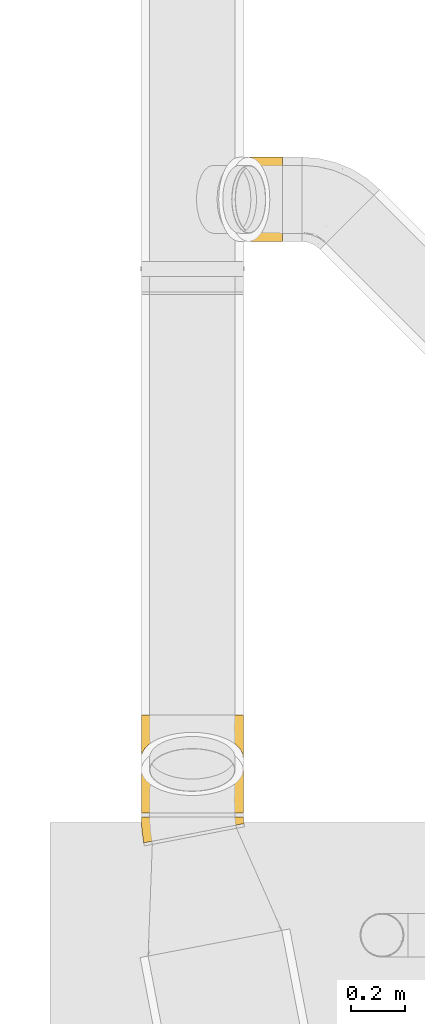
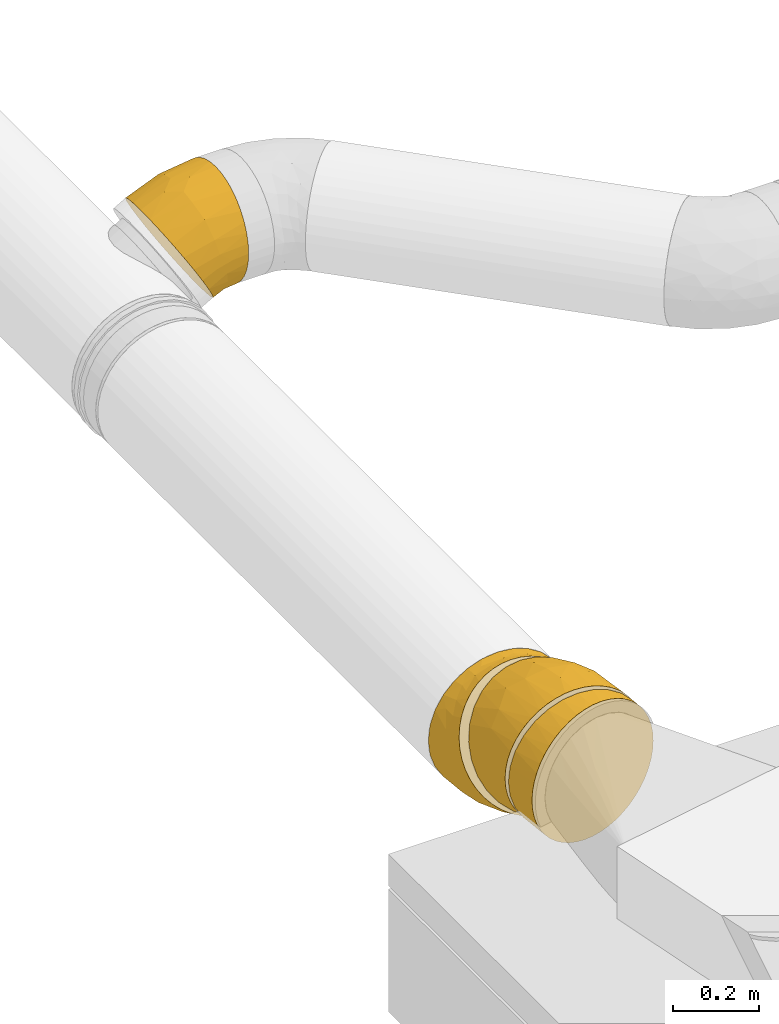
# One storey, part 3 of 21: 4 coverings.
"""IFC2X3 building model written with IfcOpenShell, lengths in millimetres."""

from ifc_helpers import new_model, entity, si_unit, converted_unit, derived_unit, direction, frame, origin_with_axes, place, context, subcontext, project, spatial, open_shell, surface_model, source, transform, mapped, element, save


model = new_model("IFC2X3")

# Units and contexts
model_context = context("Model", 3, precision=0.01, world=frame((0.0, 4.29681676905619e-09, 0.0)), true_north=direction((4.01073788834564e-13, 1.0)))
plan_context = context("Plan", 3, precision=0.01, world=frame((0.0, 4.29681676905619e-09, 0.0)), true_north=direction((4.01073788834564e-13, 1.0)))
body_context = subcontext(model_context, "Body", "Model", "MODEL_VIEW")
ifc_project = project(units=[converted_unit("PLANEANGLEUNIT", "DEGREE", entity("IfcPositiveLengthMeasure", 0.0174532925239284), si_unit("PLANEANGLEUNIT", "RADIAN"), dimensions=[0, 0, 0, 0, 0, 0, 0]), si_unit("AREAUNIT", "SQUARE_METRE"), si_unit("LENGTHUNIT", "METRE", prefix="MILLI"), si_unit("MASSUNIT", "GRAM", prefix="KILO"), si_unit("POWERUNIT", "WATT"), si_unit("PRESSUREUNIT", "PASCAL"), si_unit("FORCEUNIT", "NEWTON", prefix="KILO"), si_unit("ELECTRICVOLTAGEUNIT", "VOLT"), si_unit("ELECTRICCURRENTUNIT", "AMPERE"), si_unit("THERMODYNAMICTEMPERATUREUNIT", "DEGREE_CELSIUS"), si_unit("TIMEUNIT", "SECOND"), si_unit("VOLUMEUNIT", "CUBIC_METRE"), derived_unit("LINEARVELOCITYUNIT", [(si_unit("LENGTHUNIT", "METRE"), 1), (si_unit("TIMEUNIT", "SECOND"), -1)]), derived_unit("VOLUMETRICFLOWRATEUNIT", [(si_unit("VOLUMEUNIT", "CUBIC_METRE"), 1), (si_unit("TIMEUNIT", "SECOND"), -1)]), derived_unit("THERMALTRANSMITTANCEUNIT", [(si_unit("POWERUNIT", "WATT"), 1), (si_unit("THERMODYNAMICTEMPERATUREUNIT", "KELVIN"), -1), (si_unit("AREAUNIT", "SQUARE_METRE"), -1)]), derived_unit("SOUNDPRESSUREUNIT", [(si_unit("PRESSUREUNIT", "PASCAL"), 1)])], contexts=[model_context, plan_context])

# Site, building, storey
site_placement = place(None, frame((0.0, -4.29681676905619e-09, 0.0), z_axis=(0.0, 0.0, 1.0), x_axis=(1.0, 0.0, 0.0)))
site = spatial("IfcSite", under=ifc_project, at=site_placement, Name="ENGM", CompositionType="ELEMENT")
building_placement = place(site_placement, frame((0.0, 4.29681676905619e-09, 0.0), z_axis=(0.0, 0.0, 1.0), x_axis=(1.0, 0.0, 0.0)))
building = spatial("IfcBuilding", under=site, at=building_placement, Name="TI", CompositionType="ELEMENT")
storey_placement = place(building_placement, frame((0.0, 0.0, 210900.0), z_axis=(0.0, 0.0, 1.0), x_axis=(1.0, 0.0, 0.0)))
storey = spatial("IfcBuildingStorey", under=building, at=storey_placement, Name="Nivå F", CompositionType="ELEMENT", Elevation=210900.0)

# Coverings
shared_shape_1 = source(origin_with_axes(), body_context, "Body", "SurfaceModel", [
    surface_model("IfcShellBasedSurfaceModel", [(-19.4873, 167.72759, 0.0), (-14.81365, 159.63259, 53.0122), (-1.35471, 136.32102, 99.63454), (-18.31021, 165.68881, 26.91195), (-9.10354, 149.7424, 77.50252), (19.26159, 100.61255, 134.23266), (31.50673, 79.40337, 145.65278), (107.82971, -52.79189, -118.73529), (8.19571, 119.77922, 118.73529), (-14.81369, 159.63266, -53.01196), (8.19543, 119.77971, -118.73482), (-9.10363, 149.74254, -77.50222), (-1.35494, 136.32143, -99.63399), (-18.31026, 165.68889, -26.91148), (19.26144, 100.61281, -134.23249), (44.55673, 56.80009, -152.64582), (31.5066, 79.40357, -145.65269), (58.01271, 33.49366, -155.0), (58.01271, 33.49366, 155.0), (44.55697, 56.79968, 152.6459), (71.46869, 10.18723, 152.64582), (96.76398, -33.62548, 134.23249), (84.51881, -12.41625, 145.65269), (117.38036, -69.33411, 99.63399), (130.83912, -92.64534, 53.01196), (134.33568, -98.70156, 26.91148), (125.12904, -82.75522, 77.50222), (107.82999, -52.79238, 118.73482), (134.33563, -98.70149, -26.91195), (96.76382, -33.62523, -134.23266), (84.5187, -12.41604, -145.65278), (71.46845, 10.18764, -152.6459), (125.12896, -82.75508, -77.50252), (117.38013, -69.3337, -99.63454), (130.83907, -92.64526, -53.0122), (135.51272, -100.74027, 0.0), (-66.98731, 149.7185, -40.11695), (-66.98731, 134.23394, 77.5), (-66.98731, 155.0, 0.0), (-66.98731, 77.5, -134.23394), (-66.98731, 134.23394, -77.5), (-66.98731, 109.60155, -109.60155), (-66.98731, -77.5, 134.23394), (-66.98731, 0.0, 155.0), (-66.98731, 109.60155, 109.60155), (-66.98731, 149.7185, 40.11695), (-66.98731, 40.11695, 149.7185), (-66.98731, 77.5, 134.23394), (-66.98731, 40.11695, -149.7185), (-66.98731, 0.0, -155.0), (-66.98731, -40.11695, -149.7185), (-66.98731, -77.5, -134.23394), (-66.98731, -134.23394, -77.5), (-66.98731, -109.60155, -109.60155), (-66.98731, -155.0, 0.0), (-66.98731, -149.7185, -40.11695), (-66.98731, -134.23394, 77.5), (-66.98731, -109.60155, 109.60155), (-66.98731, -40.11695, 149.7185), (-66.98731, -149.7185, 40.11695), (3.42194, -22.89784, 151.69563), (3.34021, -148.84714, 0.0), (34.29058, -127.97065, 63.70327), (29.08628, -98.58902, 107.58049), (37.03183, -138.20466, 30.84929), (71.53087, -130.57551, 0.0), (15.49695, -57.83075, 138.94841), (-23.57526, 3.79806, 155.0), (18.51774, 15.07685, 155.0), (-37.32961, 122.13178, 99.63143), (-38.64047, 144.20928, 65.5067), (-25.29356, 94.39545, 126.96712), (-13.00009, 48.51701, 149.36618), (-52.49779, 154.25486, 23.78185), (-35.95377, 156.33294, 33.54854), (-42.3995, 158.23705, 0.0), (-50.41798, 153.46527, -30.07825), (-47.92806, 144.91575, -59.31592), (-10.5552, 39.39252, -151.66859), (-23.57526, 3.79806, -155.0), (-35.14431, 131.15929, -88.90642), (-33.01277, 103.51983, -118.73744), (-33.5473, 155.45897, -40.11439), (-19.23646, 71.79328, -140.4773), (18.51774, 15.07685, -155.0), (-30.09483, 146.11595, -67.02432), (3.42196, -22.89784, -151.69563), (15.49675, -57.83054, -138.94854), (34.29067, -127.9705, -63.70353), (29.08615, -98.58854, -107.58101), (37.03182, -138.20464, -30.84945)], [open_shell([[[0, 1, 2]], [[0, 3, 1]], [[1, 4, 2]], [[5, 6, 7]], [[2, 8, 5]], [[0, 5, 9]], [[0, 2, 5]], [[5, 7, 9]], [[10, 11, 9]], [[10, 12, 11]], [[13, 0, 9]], [[10, 9, 14]], [[14, 15, 16]], [[15, 14, 7]], [[7, 17, 15]], [[7, 14, 9]], [[18, 6, 19]], [[18, 20, 21]], [[22, 21, 20]], [[18, 21, 23]], [[23, 7, 6]], [[24, 25, 23]], [[24, 23, 26]], [[23, 21, 27]], [[28, 23, 25]], [[7, 29, 30]], [[31, 17, 30]], [[7, 30, 17]], [[32, 7, 28]], [[32, 33, 7]], [[32, 28, 34]], [[23, 28, 7]], [[25, 35, 28]], [[6, 18, 23]], [[36, 37, 38]], [[39, 36, 40]], [[37, 36, 39]], [[39, 40, 41]], [[42, 43, 39]], [[37, 43, 44]], [[37, 45, 38]], [[44, 46, 47]], [[46, 44, 43]], [[39, 43, 37]], [[39, 48, 42]], [[49, 50, 51]], [[49, 51, 52]], [[49, 52, 42]], [[52, 51, 53]], [[54, 52, 55]], [[42, 56, 57]], [[58, 43, 42]], [[56, 54, 59]], [[54, 56, 42]], [[52, 54, 42]], [[42, 48, 49]], [[22, 20, 60]], [[59, 54, 61]], [[62, 63, 56]], [[24, 26, 62]], [[42, 57, 63]], [[25, 64, 65]], [[63, 57, 56]], [[63, 66, 42]], [[66, 60, 58]], [[67, 43, 60]], [[27, 21, 66]], [[43, 58, 60]], [[68, 67, 60]], [[56, 59, 62]], [[58, 42, 66]], [[68, 60, 20]], [[65, 64, 61]], [[59, 64, 62]], [[26, 63, 62]], [[23, 63, 26]], [[24, 62, 64]], [[25, 65, 35]], [[59, 61, 64]], [[66, 22, 60]], [[18, 68, 20]], [[63, 27, 66]], [[22, 66, 21]], [[23, 27, 63]], [[24, 64, 25]], [[37, 69, 70]], [[46, 43, 67]], [[71, 47, 72]], [[72, 67, 68]], [[69, 71, 8]], [[47, 46, 72]], [[73, 74, 75]], [[45, 73, 38]], [[45, 37, 70]], [[19, 72, 68]], [[69, 44, 71]], [[73, 70, 74]], [[38, 73, 75]], [[72, 46, 67]], [[69, 8, 2]], [[8, 71, 5]], [[19, 6, 72]], [[71, 72, 5]], [[1, 74, 70]], [[44, 47, 71]], [[18, 19, 68]], [[37, 44, 69]], [[4, 1, 70]], [[3, 74, 1]], [[75, 74, 0]], [[70, 73, 45]], [[3, 0, 74]], [[72, 6, 5]], [[69, 4, 70]], [[4, 69, 2]], [[76, 77, 36]], [[38, 75, 76]], [[77, 40, 36]], [[48, 78, 79]], [[80, 40, 77]], [[41, 80, 81]], [[81, 80, 12]], [[77, 76, 82]], [[49, 48, 79]], [[39, 81, 83]], [[48, 83, 78]], [[83, 48, 39]], [[75, 13, 82]], [[79, 78, 84]], [[75, 82, 76]], [[9, 85, 82]], [[82, 13, 9]], [[12, 80, 11]], [[81, 12, 10]], [[85, 9, 11]], [[82, 85, 77]], [[15, 78, 16]], [[41, 40, 80]], [[0, 13, 75]], [[78, 83, 16]], [[14, 16, 83]], [[39, 41, 81]], [[17, 84, 15]], [[38, 76, 36]], [[11, 80, 85]], [[15, 84, 78]], [[85, 80, 77]], [[81, 14, 83]], [[14, 81, 10]], [[86, 87, 50]], [[55, 52, 88]], [[51, 89, 53]], [[49, 86, 50]], [[79, 86, 49]], [[89, 51, 87]], [[54, 55, 61]], [[89, 52, 53]], [[52, 89, 88]], [[90, 55, 88]], [[89, 33, 32]], [[84, 31, 86]], [[87, 86, 30]], [[89, 87, 7]], [[29, 87, 30]], [[33, 89, 7]], [[34, 88, 32]], [[32, 88, 89]], [[84, 86, 79]], [[65, 61, 90]], [[28, 35, 65]], [[55, 90, 61]], [[50, 87, 51]], [[90, 28, 65]], [[90, 88, 34]], [[34, 28, 90]], [[86, 31, 30]], [[31, 84, 17]], [[87, 29, 7]]])]),
])
covering_1_placement = place(storey_placement, frame((607585.18804, 693525.29135, 2600.0), z_axis=(0.0, 1.0, 0.0), x_axis=(0.866025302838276, 0.0, 0.500000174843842)))
element("IfcCovering", 1, at=covering_1_placement, inside=storey, Name="B-EI60", PredefinedType="INSULATION", context=body_context, shape_type="MappedRepresentation", body=[
    mapped(shared_shape_1, transform((0.0, 0.0, 0.0), scale=1.0)),
])
shared_shape_2 = source(origin_with_axes(), body_context, "Body", "SurfaceModel", [
    surface_model("IfcShellBasedSurfaceModel", [(-4.71663, 183.50911, 48.5277), (-3.23135, 175.76689, 71.7519), (-1.18766, 165.11387, 93.74847), (1.37948, 151.73233, 114.14103), (-4.71638, 183.5078, -48.53263), (-5.61808, 188.20806, 24.47321), (-5.92029, 189.78336, 0.0), (7.9002, 117.74223, 148.75191), (15.88644, 76.11286, 173.22595), (20.26199, 53.30474, 181.11), (7.90098, 117.73816, -148.75509), (11.74221, 97.71523, 162.37804), (4.42614, 135.85121, 132.58067), (34.01769, -18.39872, -185.89528), (-1.18717, 165.11132, -93.75296), (-3.23098, 175.76494, -71.75667), (1.38008, 151.72921, -114.14517), (4.42684, 135.84758, -132.58437), (-5.61795, 188.20741, -24.47835), (15.88734, 76.10818, -173.22793), (11.74306, 97.71081, -162.38066), (20.26292, 53.29989, -181.11133), (24.79493, 29.67618, -185.89598), (29.40582, 5.64126, -187.5), (24.79396, 29.68124, 185.89528), (29.40582, 5.64126, 187.5), (34.01672, -18.39366, 185.89598), (38.54966, -42.02221, -181.11), (42.92431, -64.82565, 173.22793), (38.54873, -42.01737, 181.11133), (47.06859, -86.42828, 162.38066), (50.91067, -106.45564, 148.75509), (63.52828, -172.22659, -48.5277), (57.43157, -140.44669, 114.14517), (59.99881, -153.8288, 93.75296), (63.52803, -172.22528, 48.53263), (64.4296, -176.92488, 24.47835), (62.04262, -164.48242, 71.75667), (54.38481, -124.56505, 132.58437), (54.38551, -124.56869, -132.58067), (50.91145, -106.45971, -148.75191), (57.43217, -140.44981, -114.14103), (47.06944, -86.43271, -162.37804), (42.92521, -64.83034, -173.22595), (64.73194, -178.50084, 0.0), (64.42973, -176.92554, -24.47321), (59.9993, -153.83136, -93.74847), (62.04299, -164.48436, -71.7519), (-29.94205, 187.5, 0.0), (-29.94205, 182.79898, -41.72268), (-29.94205, 168.93166, -81.3532), (-29.94205, 182.79898, 41.72268), (-29.94205, 146.5934, -116.90434), (-29.94205, 81.3532, -168.93166), (-29.94205, 116.90434, -146.5934), (-29.94205, -81.3532, 168.93166), (-29.94205, 168.93166, 81.3532), (-29.94205, 116.90434, 146.5934), (-29.94205, 146.5934, 116.90434), (-29.94205, 81.3532, 168.93166), (-29.94205, 41.72268, 182.79898), (-29.94205, -41.72268, 182.79898), (-29.94205, 0.0, 187.5), (-29.94205, 41.72268, -182.79898), (-29.94205, -41.72268, -182.79898), (-29.94205, -81.3532, -168.93166), (-29.94205, -146.5934, -116.90434), (-29.94205, -182.79898, -41.72268), (-29.94205, -168.93166, -81.3532), (-29.94205, -116.90434, -146.5934), (-29.94205, -146.5934, 116.90434), (-29.94205, -116.90434, 146.5934), (-29.94205, -182.79898, 41.72268), (-29.94205, -168.93166, 81.3532), (-29.94205, -187.5, 0.0), (-29.94205, 0.0, -187.5), (17.60831, -185.24516, 0.0), (-0.13436, 1.41349, 187.5), (-17.87703, 188.07213, 0.0), (-0.13436, 1.41349, -187.5)], [open_shell([[[0, 1, 2]], [[0, 2, 3]], [[0, 4, 5]], [[4, 6, 5]], [[7, 0, 3]], [[7, 8, 9]], [[9, 10, 0]], [[7, 11, 8]], [[9, 0, 7]], [[12, 7, 3]], [[9, 13, 10]], [[4, 14, 15]], [[4, 10, 16]], [[4, 16, 14]], [[17, 16, 10]], [[18, 6, 4]], [[10, 19, 20]], [[19, 10, 21]], [[10, 22, 21]], [[22, 10, 23]], [[4, 0, 10]], [[13, 23, 10]], [[9, 24, 25]], [[25, 26, 27]], [[28, 26, 29]], [[30, 31, 26]], [[30, 26, 28]], [[31, 32, 26]], [[33, 34, 31]], [[32, 31, 34]], [[35, 36, 34]], [[35, 34, 37]], [[31, 38, 33]], [[36, 32, 34]], [[39, 40, 41]], [[27, 40, 42]], [[32, 40, 27]], [[27, 42, 43]], [[25, 27, 13]], [[32, 44, 45]], [[46, 40, 32]], [[46, 41, 40]], [[46, 32, 47]], [[26, 32, 27]], [[36, 44, 32]], [[25, 13, 9]], [[48, 49, 50]], [[51, 48, 50]], [[52, 53, 51]], [[52, 54, 53]], [[52, 51, 50]], [[51, 53, 55]], [[56, 57, 58]], [[57, 56, 51]], [[59, 57, 60]], [[61, 62, 60]], [[57, 51, 55]], [[60, 57, 61]], [[53, 63, 55]], [[64, 65, 63]], [[65, 66, 63]], [[67, 63, 66]], [[68, 67, 66]], [[66, 65, 69]], [[67, 55, 63]], [[55, 70, 71]], [[61, 57, 55]], [[72, 70, 55]], [[73, 70, 72]], [[67, 72, 55]], [[67, 74, 72]], [[75, 64, 63]], [[72, 74, 76]], [[70, 73, 34]], [[72, 37, 73]], [[38, 71, 70]], [[77, 61, 26]], [[55, 28, 61]], [[77, 62, 61]], [[26, 25, 77]], [[30, 55, 71]], [[76, 35, 72]], [[73, 37, 34]], [[34, 33, 70]], [[76, 36, 35]], [[35, 37, 72]], [[38, 70, 33]], [[28, 29, 61]], [[26, 61, 29]], [[31, 30, 71]], [[28, 55, 30]], [[38, 31, 71]], [[36, 76, 44]], [[60, 62, 77]], [[12, 57, 7]], [[60, 8, 59]], [[59, 11, 57]], [[78, 48, 51]], [[5, 78, 51]], [[51, 56, 1]], [[12, 58, 57]], [[12, 3, 58]], [[58, 2, 56]], [[24, 60, 77]], [[59, 8, 11]], [[11, 7, 57]], [[8, 60, 9]], [[60, 24, 9]], [[77, 25, 24]], [[2, 1, 56]], [[1, 0, 51]], [[6, 78, 5]], [[51, 0, 5]], [[2, 58, 3]], [[49, 48, 78]], [[17, 52, 16]], [[49, 15, 50]], [[50, 14, 52]], [[79, 75, 63]], [[22, 79, 63]], [[63, 53, 19]], [[17, 54, 52]], [[17, 10, 54]], [[54, 20, 53]], [[18, 49, 78]], [[50, 15, 14]], [[14, 16, 52]], [[4, 15, 49]], [[18, 4, 49]], [[78, 6, 18]], [[20, 19, 53]], [[19, 21, 63]], [[23, 79, 22]], [[63, 21, 22]], [[20, 54, 10]], [[43, 65, 64]], [[64, 79, 13]], [[75, 79, 64]], [[69, 65, 42]], [[76, 74, 67]], [[32, 76, 67]], [[66, 69, 39]], [[46, 68, 66]], [[67, 68, 47]], [[13, 79, 23]], [[64, 27, 43]], [[65, 43, 42]], [[40, 39, 69]], [[40, 69, 42]], [[39, 41, 66]], [[46, 47, 68]], [[47, 32, 67]], [[45, 44, 76]], [[76, 32, 45]], [[66, 41, 46]], [[27, 64, 13]]])]),
])
covering_2_placement = place(storey_placement, frame((607319.79165, 691225.17878, 2556.77914), z_axis=(0.00129100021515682, 0.0, 0.999999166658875), x_axis=(0.0, -1.0, 0.0)))
element("IfcCovering", 2, at=covering_2_placement, inside=storey, Name="T=25mm", PredefinedType="INSULATION", context=body_context, shape_type="MappedRepresentation", body=[
    mapped(shared_shape_2, transform((0.0, 0.0, 0.0), scale=1.0)),
])
shared_shape_3 = source(origin_with_axes(), body_context, "Body", "SurfaceModel", [
    surface_model("IfcShellBasedSurfaceModel", [(-19.85164, 203.19205, -24.47835), (-20.65399, 204.58175, 0.0), (-19.85198, 203.19263, 24.47321), (6.80382, 157.02343, 132.58067), (-8.09432, 182.82776, 93.74847), (-1.28154, 171.02768, 114.14103), (26.21952, 123.39445, 162.37804), (37.21767, 104.3451, 173.22595), (48.82969, 84.23249, 181.11), (16.02342, 141.05461, 148.75191), (-17.459, 199.04786, -48.53263), (-8.09302, 182.82552, -93.75296), (-13.51697, 192.22008, -71.75667), (16.02549, 141.05102, -148.75509), (-1.27995, 171.02494, -114.14517), (6.80567, 157.02023, -132.58437), (48.83216, 84.22822, -181.11133), (73.09601, 42.202, -187.5), (60.8594, 63.39642, -185.89598), (119.97249, -38.99045, -162.37804), (139.38819, -72.61944, -132.58067), (130.16859, -56.65062, -148.75191), (97.36232, 0.1715, -181.11), (108.97434, -19.9411, -173.22595), (-84.404, 187.5, 0.0), (-84.404, 182.79898, -41.72268), (-84.404, 168.93166, -81.3532), (-84.404, 182.79898, 41.72268), (-84.404, 81.3532, -168.93166), (-84.404, 146.5934, -116.90434), (-84.404, 116.90434, -146.5934), (-84.404, 41.72268, -182.79898), (-84.404, 168.93166, 81.3532), (-84.404, 116.90434, 146.5934), (-84.404, 146.5934, 116.90434), (-84.404, 81.3532, 168.93166), (-84.404, 41.72268, 182.79898), (-84.404, -81.3532, 168.93166), (-84.404, 0.0, 187.5), (-84.404, -146.5934, -116.90434), (-84.404, 0.0, -187.5), (-84.404, -41.72268, -182.79898), (-84.404, -116.90434, -146.5934), (-84.404, -81.3532, -168.93166), (-84.404, -168.93166, -81.3532), (-84.404, -182.79898, -41.72268), (-84.404, -187.5, 0.0), (-84.404, -146.5934, 116.90434), (-84.404, -116.90434, 146.5934), (-84.404, -41.72268, 182.79898), (-84.404, -182.79898, 41.72268), (-84.404, -168.93166, 81.3532), (40.91571, -161.98348, 58.40476), (-18.81458, -183.20105, 0.0), (23.33235, 18.99682, 187.5), (9.45074, -28.20553, 183.00553), (85.33261, 21.00758, 185.89598), (4.94347, -107.61188, 146.55424), (83.10749, -137.11796, 84.94935), (159.70898, -107.81608, 71.75667), (154.28502, -98.42152, 93.75296), (139.38634, -72.61623, 132.58437), (130.16652, -56.64703, 148.75509), (45.65257, -170.37774, 0.0), (107.89443, -149.24947, 0.0), (108.97195, -19.93697, 173.22793), (97.35985, 0.17578, 181.11133), (3.57015, -155.3659, 91.74274), (21.42685, -72.3498, 166.33056), (34.98376, -127.23808, 121.19109), (-29.70482, 4.78556, 187.5), (147.47196, -86.62094, 114.14517), (166.04364, -118.78805, 24.47835), (163.651, -114.64387, 48.53263), (73.09601, 42.202, 187.5), (119.97024, -38.98655, 162.38066), (166.84601, -120.17777, 0.0), (-10.10113, 37.69792, 185.41025), (-51.62811, 102.01585, 158.91592), (-34.57135, 130.23151, 140.96811), (-63.27802, 180.24347, 57.08913), (-51.40457, 191.84445, 0.0), (-43.66185, 189.046, 42.49712), (-12.19776, 105.61491, 162.51553), (-19.68591, 68.63226, 177.54812), (-24.63618, 154.92477, 119.92728), (60.85683, 63.40088, 185.89528), (-17.45966, 199.04901, 48.5277), (-45.936, 173.29282, 82.92772), (-52.82567, 151.82518, 114.0855), (-13.51796, 192.22179, 71.7519), (-62.96745, 186.82784, -30.22649), (-49.48172, 182.05845, -60.27369), (-42.34345, 191.94557, -30.7829), (-60.66386, 160.7319, -99.50869), (-39.08631, 146.97201, -123.62945), (-34.69273, 170.84626, -93.51443), (-46.23038, 117.74531, -148.79768), (-16.17009, 132.25017, -144.13084), (-13.41482, 50.0648, -183.02518), (-29.70482, 4.78556, -187.5), (26.22177, 123.39055, -162.38066), (23.33235, 18.99682, -187.5), (-23.60571, 91.03323, -168.16434), (37.22005, 104.34097, -173.22793), (21.42781, -72.35427, -166.32818), (30.69075, -111.01508, -138.59089), (9.45279, -28.21013, -183.00442), (147.47355, -86.62369, -114.14103), (40.91819, -161.98444, -58.40001), (10.78188, -150.23949, -97.95717), (159.70996, -107.81778, -71.7519), (163.65168, -114.64501, -48.5277), (85.33518, 21.00312, -185.89528), (154.28633, -98.42377, -93.74847), (166.04399, -118.78863, -24.47321)], [open_shell([[[0, 1, 2]], [[3, 4, 5]], [[6, 7, 8]], [[3, 9, 6]], [[10, 11, 12]], [[10, 13, 14]], [[10, 14, 11]], [[15, 14, 13]], [[0, 2, 10]], [[16, 17, 18]], [[19, 20, 21]], [[20, 19, 22]], [[22, 19, 23]], [[24, 25, 26]], [[27, 24, 26]], [[26, 28, 27]], [[29, 30, 28]], [[26, 29, 28]], [[27, 28, 31]], [[32, 33, 34]], [[33, 32, 27]], [[35, 33, 36]], [[36, 33, 27]], [[31, 36, 27]], [[36, 37, 38]], [[36, 31, 39]], [[39, 40, 41]], [[42, 41, 43]], [[39, 37, 36]], [[44, 45, 39]], [[39, 41, 42]], [[46, 39, 45]], [[37, 47, 48]], [[49, 38, 37]], [[50, 47, 39]], [[51, 47, 50]], [[47, 37, 39]], [[50, 39, 46]], [[31, 40, 39]], [[52, 50, 53]], [[53, 50, 46]], [[54, 55, 56]], [[57, 37, 48]], [[58, 59, 60]], [[61, 62, 57]], [[63, 64, 52]], [[63, 52, 53]], [[65, 66, 55]], [[52, 67, 51]], [[68, 55, 37]], [[47, 69, 57]], [[47, 67, 69]], [[58, 67, 52]], [[55, 70, 49]], [[70, 55, 54]], [[47, 51, 67]], [[70, 38, 49]], [[51, 50, 52]], [[58, 60, 71]], [[57, 48, 47]], [[59, 58, 52]], [[72, 52, 64]], [[55, 49, 37]], [[58, 71, 69]], [[69, 67, 58]], [[72, 73, 52]], [[59, 52, 73]], [[61, 69, 71]], [[66, 56, 55]], [[74, 54, 56]], [[37, 57, 68]], [[68, 57, 62]], [[68, 75, 65]], [[65, 55, 68]], [[62, 75, 68]], [[64, 76, 72]], [[57, 69, 61]], [[77, 36, 70]], [[70, 36, 38]], [[33, 78, 79]], [[32, 80, 27]], [[3, 79, 9]], [[77, 70, 54]], [[81, 80, 82]], [[83, 78, 84]], [[3, 85, 79]], [[86, 77, 54]], [[81, 24, 27]], [[85, 5, 4]], [[2, 82, 87]], [[80, 88, 82]], [[88, 80, 32]], [[33, 79, 89]], [[85, 4, 88]], [[34, 33, 89]], [[78, 83, 79]], [[85, 89, 79]], [[86, 8, 77]], [[33, 35, 78]], [[83, 9, 79]], [[6, 9, 83]], [[35, 36, 84]], [[7, 84, 8]], [[8, 84, 77]], [[80, 81, 27]], [[7, 83, 84]], [[74, 86, 54]], [[32, 34, 89]], [[90, 88, 4]], [[7, 6, 83]], [[90, 87, 82]], [[82, 88, 90]], [[1, 81, 2]], [[84, 78, 35]], [[32, 89, 88]], [[82, 2, 81]], [[36, 77, 84]], [[88, 89, 85]], [[3, 5, 85]], [[91, 92, 25]], [[91, 24, 81]], [[1, 93, 81]], [[92, 94, 26]], [[95, 14, 15]], [[96, 94, 92]], [[91, 93, 92]], [[97, 29, 95]], [[15, 98, 95]], [[31, 99, 100]], [[100, 40, 31]], [[98, 13, 101]], [[94, 96, 95]], [[31, 28, 99]], [[102, 100, 99]], [[28, 103, 99]], [[12, 96, 92]], [[29, 97, 30]], [[24, 91, 25]], [[98, 97, 95]], [[101, 103, 98]], [[29, 26, 94]], [[96, 14, 95]], [[11, 14, 96]], [[26, 25, 92]], [[10, 12, 92]], [[92, 93, 10]], [[29, 94, 95]], [[93, 91, 81]], [[0, 93, 1]], [[28, 30, 97]], [[104, 103, 101]], [[12, 11, 96]], [[104, 16, 99]], [[16, 18, 99]], [[17, 102, 18]], [[10, 93, 0]], [[28, 97, 103]], [[99, 18, 102]], [[99, 103, 104]], [[103, 97, 98]], [[15, 13, 98]], [[42, 105, 106]], [[107, 105, 43]], [[108, 106, 20]], [[105, 19, 21]], [[102, 107, 100]], [[40, 100, 41]], [[105, 42, 43]], [[53, 46, 45]], [[53, 109, 63]], [[64, 63, 109]], [[110, 109, 44]], [[44, 39, 110]], [[45, 109, 53]], [[39, 42, 106]], [[111, 112, 109]], [[45, 44, 109]], [[113, 107, 102]], [[107, 113, 22]], [[23, 105, 107]], [[106, 105, 21]], [[19, 105, 23]], [[20, 106, 21]], [[110, 114, 109]], [[111, 109, 114]], [[64, 109, 115]], [[39, 106, 110]], [[76, 64, 115]], [[107, 22, 23]], [[107, 41, 100]], [[109, 112, 115]], [[110, 106, 108]], [[110, 108, 114]], [[113, 102, 17]], [[107, 43, 41]], [[65, 56, 66]], [[61, 75, 62]], [[108, 111, 114]], [[13, 104, 101]], [[72, 61, 71]], [[87, 90, 4]], [[73, 60, 59]], [[108, 20, 115]], [[4, 10, 2]], [[2, 87, 4]], [[113, 13, 6]], [[10, 4, 6]], [[3, 6, 4]], [[6, 8, 113]], [[104, 13, 16]], [[17, 16, 13]], [[10, 6, 13]], [[113, 17, 13]], [[75, 8, 86]], [[86, 56, 65]], [[75, 61, 8]], [[86, 65, 75]], [[73, 71, 60]], [[73, 72, 71]], [[61, 113, 8]], [[113, 61, 72]], [[115, 20, 22]], [[76, 22, 113]], [[108, 115, 112]], [[111, 108, 112]], [[115, 22, 76]], [[113, 72, 76]], [[56, 86, 74]]])]),
])
covering_3_placement = place(storey_placement, frame((607319.79165, 691355.17878, 2556.77914), z_axis=(1.0, 0.0, 0.0), x_axis=(0.0, -0.866025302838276, 0.500000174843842)))
element("IfcCovering", 3, at=covering_3_placement, inside=storey, Name="T=25mm", PredefinedType="INSULATION", context=body_context, shape_type="MappedRepresentation", body=[
    mapped(shared_shape_3, transform((0.0, 0.0, 0.0), scale=1.0)),
])
shared_shape_4 = source(origin_with_axes(), body_context, "Body", "SurfaceModel", [
    surface_model("IfcShellBasedSurfaceModel", [(26.21952, 123.39445, 162.37804), (37.21767, 104.3451, 173.22595), (48.82969, 84.23249, 181.11), (6.80382, 157.02343, 132.58067), (16.02342, 141.05461, 148.75191), (-17.459, 199.04786, -48.53263), (-8.09302, 182.82552, -93.75296), (-13.51697, 192.22008, -71.75667), (48.83216, 84.22822, -181.11133), (73.09601, 42.202, -187.5), (60.8594, 63.39642, -185.89598), (73.09601, 42.202, 187.5), (85.33261, 21.00758, 185.89598), (97.35985, 0.17578, 181.11133), (159.70898, -107.81608, 71.75667), (163.651, -114.64387, 48.53263), (166.04364, -118.78805, 24.47835), (119.97249, -38.99045, -162.37804), (139.38819, -72.61944, -132.58067), (130.16859, -56.65062, -148.75191), (97.36232, 0.1715, -181.11), (108.97434, -19.9411, -173.22595), (85.33518, 21.00312, -185.89528), (159.70996, -107.81778, -71.7519), (166.04399, -118.78863, -24.47321), (163.65168, -114.64501, -48.5277), (-84.404, 187.5, 0.0), (-84.404, 182.79898, -41.72268), (-84.404, 168.93166, -81.3532), (-84.404, 182.79898, 41.72268), (-84.404, 81.3532, -168.93166), (-84.404, 146.5934, -116.90434), (-84.404, 116.90434, -146.5934), (-84.404, 41.72268, -182.79898), (-84.404, 168.93166, 81.3532), (-84.404, 116.90434, 146.5934), (-84.404, 146.5934, 116.90434), (-84.404, 81.3532, 168.93166), (-84.404, 41.72268, 182.79898), (-84.404, -81.3532, 168.93166), (-84.404, 0.0, 187.5), (-84.404, -146.5934, -116.90434), (-84.404, 0.0, -187.5), (-84.404, -41.72268, -182.79898), (-84.404, -116.90434, -146.5934), (-84.404, -81.3532, -168.93166), (-84.404, -168.93166, -81.3532), (-84.404, -182.79898, -41.72268), (-84.404, -187.5, 0.0), (-84.404, -146.5934, 116.90434), (-84.404, -116.90434, 146.5934), (-84.404, -41.72268, 182.79898), (-84.404, -182.79898, 41.72268), (-84.404, -168.93166, 81.3532), (40.91571, -161.98348, 58.40476), (-18.81458, -183.20105, 0.0), (23.33235, 18.99682, 187.5), (9.45074, -28.20553, 183.00553), (4.94347, -107.61188, 146.55424), (83.10749, -137.11796, 84.94935), (154.28502, -98.42152, 93.75296), (139.38634, -72.61623, 132.58437), (130.16652, -56.64703, 148.75509), (45.65257, -170.37774, 0.0), (107.89443, -149.24947, 0.0), (108.97195, -19.93697, 173.22793), (3.57015, -155.3659, 91.74274), (21.42685, -72.3498, 166.33056), (34.98376, -127.23808, 121.19109), (-29.70482, 4.78556, 187.5), (147.47196, -86.62094, 114.14517), (119.97024, -38.98655, 162.38066), (166.84601, -120.17777, 0.0), (-10.10113, 37.69792, 185.41025), (-51.62811, 102.01585, 158.91592), (-34.57135, 130.23151, 140.96811), (-63.27802, 180.24347, 57.08913), (-51.40457, 191.84445, 0.0), (-43.66185, 189.046, 42.49712), (-12.19776, 105.61491, 162.51553), (-19.68591, 68.63226, 177.54812), (-24.63618, 154.92477, 119.92728), (60.85683, 63.40088, 185.89528), (-1.28154, 171.02768, 114.14103), (-8.09432, 182.82776, 93.74847), (-19.85198, 203.19263, 24.47321), (-17.45966, 199.04901, 48.5277), (-45.936, 173.29282, 82.92772), (-52.82567, 151.82518, 114.0855), (-13.51796, 192.22179, 71.7519), (-20.65399, 204.58175, 0.0), (-62.96745, 186.82784, -30.22649), (-49.48172, 182.05845, -60.27369), (-42.34345, 191.94557, -30.7829), (-60.66386, 160.7319, -99.50869), (-39.08631, 146.97201, -123.62945), (-1.27995, 171.02494, -114.14517), (6.80567, 157.02023, -132.58437), (-34.69273, 170.84626, -93.51443), (-46.23038, 117.74531, -148.79768), (-16.17009, 132.25017, -144.13084), (-13.41482, 50.0648, -183.02518), (-29.70482, 4.78556, -187.5), (16.02549, 141.05102, -148.75509), (26.22177, 123.39055, -162.38066), (23.33235, 18.99682, -187.5), (-23.60571, 91.03323, -168.16434), (-19.85164, 203.19205, -24.47835), (37.22005, 104.34097, -173.22793), (21.42781, -72.35427, -166.32818), (30.69075, -111.01508, -138.59089), (9.45279, -28.21013, -183.00442), (147.47355, -86.62369, -114.14103), (40.91819, -161.98444, -58.40001), (10.78188, -150.23949, -97.95717), (154.28633, -98.42377, -93.74847)], [open_shell([[[0, 1, 2]], [[3, 4, 0]], [[5, 6, 7]], [[8, 9, 10]], [[11, 12, 13]], [[14, 15, 16]], [[17, 18, 19]], [[20, 17, 21]], [[22, 9, 20]], [[23, 24, 25]], [[26, 27, 28]], [[29, 26, 28]], [[28, 30, 29]], [[31, 32, 30]], [[28, 31, 30]], [[29, 30, 33]], [[34, 35, 36]], [[35, 34, 29]], [[37, 35, 38]], [[38, 35, 29]], [[33, 38, 29]], [[38, 39, 40]], [[38, 33, 41]], [[41, 42, 43]], [[44, 43, 45]], [[41, 39, 38]], [[46, 47, 41]], [[41, 43, 44]], [[48, 41, 47]], [[39, 49, 50]], [[51, 40, 39]], [[52, 49, 41]], [[53, 49, 52]], [[49, 39, 41]], [[52, 41, 48]], [[33, 42, 41]], [[54, 52, 55]], [[55, 52, 48]], [[56, 57, 12]], [[58, 39, 50]], [[59, 14, 60]], [[61, 62, 58]], [[63, 64, 54]], [[63, 54, 55]], [[65, 13, 57]], [[54, 66, 53]], [[67, 57, 39]], [[49, 68, 58]], [[49, 66, 68]], [[59, 66, 54]], [[57, 69, 51]], [[69, 57, 56]], [[49, 53, 66]], [[69, 40, 51]], [[53, 52, 54]], [[59, 60, 70]], [[58, 50, 49]], [[14, 59, 54]], [[16, 54, 64]], [[57, 51, 39]], [[59, 70, 68]], [[68, 66, 59]], [[16, 15, 54]], [[14, 54, 15]], [[61, 68, 70]], [[13, 12, 57]], [[11, 56, 12]], [[39, 58, 67]], [[67, 58, 62]], [[67, 71, 65]], [[65, 57, 67]], [[62, 71, 67]], [[64, 72, 16]], [[58, 68, 61]], [[73, 38, 69]], [[69, 38, 40]], [[35, 74, 75]], [[34, 76, 29]], [[3, 75, 4]], [[73, 69, 56]], [[77, 76, 78]], [[79, 74, 80]], [[3, 81, 75]], [[82, 73, 56]], [[77, 26, 29]], [[81, 83, 84]], [[85, 78, 86]], [[76, 87, 78]], [[87, 76, 34]], [[35, 75, 88]], [[81, 84, 87]], [[36, 35, 88]], [[74, 79, 75]], [[81, 88, 75]], [[82, 2, 73]], [[35, 37, 74]], [[79, 4, 75]], [[0, 4, 79]], [[37, 38, 80]], [[1, 80, 2]], [[2, 80, 73]], [[76, 77, 29]], [[1, 79, 80]], [[11, 82, 56]], [[34, 36, 88]], [[89, 87, 84]], [[1, 0, 79]], [[89, 86, 78]], [[78, 87, 89]], [[90, 77, 85]], [[80, 74, 37]], [[34, 88, 87]], [[78, 85, 77]], [[38, 73, 80]], [[87, 88, 81]], [[3, 83, 81]], [[91, 92, 27]], [[91, 26, 77]], [[90, 93, 77]], [[92, 94, 28]], [[95, 96, 97]], [[98, 94, 92]], [[91, 93, 92]], [[99, 31, 95]], [[97, 100, 95]], [[33, 101, 102]], [[102, 42, 33]], [[100, 103, 104]], [[94, 98, 95]], [[33, 30, 101]], [[105, 102, 101]], [[30, 106, 101]], [[7, 98, 92]], [[31, 99, 32]], [[26, 91, 27]], [[100, 99, 95]], [[104, 106, 100]], [[31, 28, 94]], [[98, 96, 95]], [[6, 96, 98]], [[28, 27, 92]], [[5, 7, 92]], [[92, 93, 5]], [[31, 94, 95]], [[93, 91, 77]], [[107, 93, 90]], [[30, 32, 99]], [[108, 106, 104]], [[7, 6, 98]], [[108, 8, 101]], [[8, 10, 101]], [[9, 105, 10]], [[5, 93, 107]], [[30, 99, 106]], [[101, 10, 105]], [[101, 106, 108]], [[106, 99, 100]], [[97, 103, 100]], [[44, 109, 110]], [[111, 109, 45]], [[112, 110, 18]], [[109, 17, 19]], [[105, 111, 102]], [[42, 102, 43]], [[109, 44, 45]], [[55, 48, 47]], [[55, 113, 63]], [[64, 63, 113]], [[114, 113, 46]], [[46, 41, 114]], [[47, 113, 55]], [[41, 44, 110]], [[23, 25, 113]], [[47, 46, 113]], [[22, 111, 105]], [[111, 22, 20]], [[21, 109, 111]], [[110, 109, 19]], [[17, 109, 21]], [[18, 110, 19]], [[114, 115, 113]], [[23, 113, 115]], [[64, 113, 24]], [[41, 110, 114]], [[72, 64, 24]], [[111, 20, 21]], [[111, 43, 102]], [[113, 25, 24]], [[114, 110, 112]], [[114, 112, 115]], [[22, 105, 9]], [[111, 45, 43]], [[85, 86, 89]], [[84, 83, 3]], [[9, 8, 108]], [[82, 11, 9]], [[61, 71, 62]], [[112, 23, 115]], [[3, 85, 89]], [[89, 84, 3]], [[90, 85, 3]], [[97, 3, 2]], [[3, 0, 2]], [[5, 90, 3]], [[9, 2, 82]], [[97, 5, 3]], [[6, 97, 96]], [[97, 6, 5]], [[107, 90, 5]], [[103, 108, 104]], [[103, 97, 108]], [[97, 9, 108]], [[9, 97, 2]], [[61, 11, 13]], [[61, 13, 71]], [[71, 13, 65]], [[16, 61, 70]], [[14, 70, 60]], [[14, 16, 70]], [[61, 18, 9]], [[112, 61, 16]], [[20, 9, 17]], [[9, 18, 17]], [[23, 16, 24]], [[112, 16, 23]], [[112, 18, 61]], [[72, 24, 16]], [[61, 9, 11]]])]),
])
covering_4_placement = place(storey_placement, frame((607319.79165, 691545.70437, 2446.77914), z_axis=(-1.0, 0.0, 0.0), x_axis=(0.0, -1.0, 0.0)))
element("IfcCovering", 4, at=covering_4_placement, inside=storey, Name="T=25mm", PredefinedType="INSULATION", context=body_context, shape_type="MappedRepresentation", body=[
    mapped(shared_shape_4, transform((0.0, 0.0, 0.0), scale=1.0)),
])

save(model, "model.ifc")
